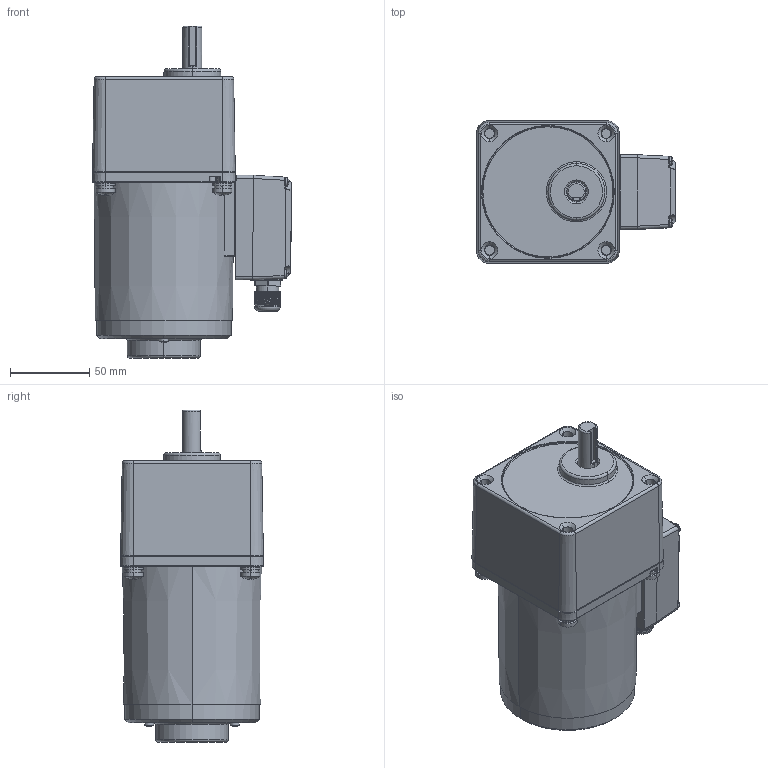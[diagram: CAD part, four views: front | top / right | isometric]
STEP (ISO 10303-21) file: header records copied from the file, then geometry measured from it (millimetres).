
FILE_DESCRIPTION (( 'STEP AP203' ), '1' );
FILE_NAME ('5IK40RGN-CT(5GN3K-200K).STEP', '2020-04-09T03:25:17', ( 'Windows 蚚誧' ), ( '' ), 'SwSTEP 2.0', 'SolidWorks 2019', '' );
FILE_SCHEMA (( 'CONFIG_CONTROL_DESIGN' ));
Length unit declared in the file: millimetre
Products named in the file (14): PRT0099^3ik15ra-c_asm(2)_70TSZ; TSJXH^70TSJXHG(2)_70TSJXHG.STEP; PRT0101^3ik15ra-c_asm(2)_70TSZ; M14SJQ^70TSJXHG(2)_70TSJXHG.STEP; 3ik15ra-c_asm(2)^70TSZ; M3^70TSJXHG(2)_70TSJXHG.STEP; 70TSZ; 70TSJXHG(2)^70TSJXHG.STEP; 5IK40RA-CT; 70TSJXHG.STEP; 5GN3K‵200K; 3IK15RA-C_AF0^3ik15ra-c_asm(2)_70TSZ; 5IK40RGN-CT(5GN3K-200K); 9040TSJXHJK
Assembly tree (16 placements, depth 5):
  5IK40RGN-CT(5GN3K-200K)
    5IK40RA-CT
      9040TSJXHJK
      70TSJXHG.STEP
        70TSJXHG(2)^70TSJXHG.STEP
          TSJXH^70TSJXHG(2)_70TSJXHG.STEP
          M14SJQ^70TSJXHG(2)_70TSJXHG.STEP
          M3^70TSJXHG(2)_70TSJXHG.STEP  x4
      70TSZ
        3ik15ra-c_asm(2)^70TSZ
          3IK15RA-C_AF0^3ik15ra-c_asm(2)_70TSZ
          PRT0099^3ik15ra-c_asm(2)_70TSZ
          PRT0101^3ik15ra-c_asm(2)_70TSZ
    5GN3K‵200K
Bounding box: 125.44 x 90 x 209.25 mm (x, y, z)
Volume: 732239 mm3; surface area: 173921.2 mm2
Topology: 41 solids, 42 shells, 2008 faces, 5145 edges, 3245 vertices
Faces by surface type: cylinder 665, cone 548, plane 546, torus 153, sphere 78, bspline 18
Entity records: 56958 total; most frequent: CARTESIAN_POINT 15536, DIRECTION 8886, ORIENTED_EDGE 8218, EDGE_CURVE 4109, AXIS2_PLACEMENT_3D 3675, VERTEX_POINT 2625, CIRCLE 2048, EDGE_LOOP 1720
